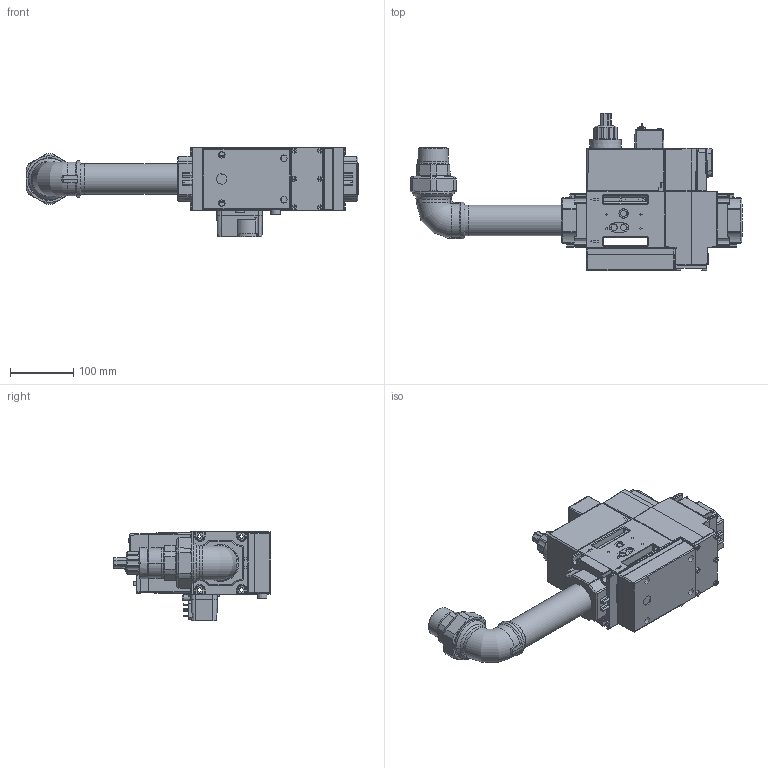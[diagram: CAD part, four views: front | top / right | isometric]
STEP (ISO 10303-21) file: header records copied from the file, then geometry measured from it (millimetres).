
FILE_DESCRIPTION (( 'STEP AP214' ), '1' );
FILE_NAME ('19990558.STEP', '2021-04-06T09:01:49', ( '' ), ( '' ), 'SwSTEP 2.0', 'SolidWorks 2018', '' );
FILE_SCHEMA (( 'AUTOMOTIVE_DESIGN' ));
Length unit declared in the file: millimetre
Products named in the file (1): 19990558
Bounding box: 523.35 x 248 x 141.58 mm (x, y, z)
Surface area: 328675.8 mm2 (no closed solid volume)
Topology: 0 solids, 27 shells, 1352 faces, 4284 edges, 2871 vertices
Faces by surface type: plane 497, cylinder 441, bspline 244, torus 91, cone 52, sphere 27
Full cylindrical faces by diameter (mm): 1.5 x1, 2 x2, 2.45 x1, 3.7 x3, 4 x4, 4.5 x1, 6.647 x3, 6.917 x4, 8 x3, 8.5 x9, 8.57 x1, 9 x2, 10 x9, 11 x6, 15 x2, 15.3 x1, 26 x1, 36.15 x1, 45 x1, 47.803 x1, 48.3 x1, 58.45 x1, 59 x1, 65.71 x1, 70 x1
Entity records: 93188 total; most frequent: CARTESIAN_POINT 46109, ORIENTED_EDGE 6915, DIRECTION 5059, EDGE_CURVE 4066, VERTEX_POINT 2824, B_SPLINE_CURVE_WITH_KNOTS 1750, VECTOR 1719, LINE 1719
